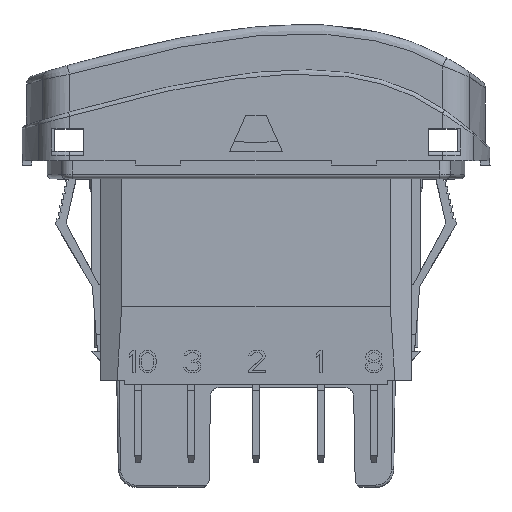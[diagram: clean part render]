
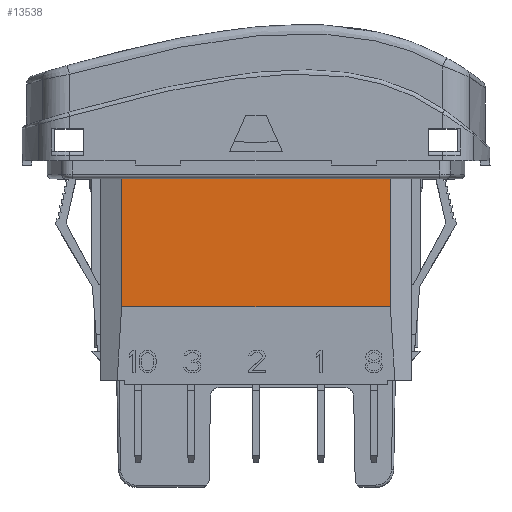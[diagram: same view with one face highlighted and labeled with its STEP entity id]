
A CAD part, top view. The second image highlights one B-rep face of the part: STEP entity #13538.
In plain terms, the highlighted planar face has unit normal (0, 0, 1).
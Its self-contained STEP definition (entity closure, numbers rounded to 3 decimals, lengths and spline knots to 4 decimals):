
#1695=DIRECTION('',(1.,0.,0.));
#1696=VECTOR('',#1695,1.1663);
#1697=CARTESIAN_POINT('',(-0.5831,0.9331,
0.4094));
#1698=LINE('',#1697,#1696);
#1939=DIRECTION('',(0.,1.,0.));
#1940=VECTOR('',#1939,0.6142);
#1941=CARTESIAN_POINT('',(0.5831,0.3189,
0.4094));
#1942=LINE('',#1941,#1940);
#2807=DIRECTION('',(0.,1.,0.));
#2808=VECTOR('',#2807,0.6142);
#2809=CARTESIAN_POINT('',(-0.5831,0.3189,
0.4094));
#2810=LINE('',#2809,#2808);
#2997=DIRECTION('',(1.,0.,0.));
#2998=VECTOR('',#2997,1.1663);
#2999=CARTESIAN_POINT('',(-0.5831,0.3189,
0.4094));
#3000=LINE('',#2999,#2998);
#8009=CARTESIAN_POINT('',(0.5831,0.9331,
0.4094));
#8010=VERTEX_POINT('',#8009);
#8021=CARTESIAN_POINT('',(-0.5831,0.9331,
0.4094));
#8022=VERTEX_POINT('',#8021);
#9835=CARTESIAN_POINT('',(-0.5831,0.3189,
0.4094));
#9836=CARTESIAN_POINT('',(0.5831,0.3189,
0.4094));
#9837=VERTEX_POINT('',#9835);
#9838=VERTEX_POINT('',#9836);
#13527=CARTESIAN_POINT('',(-0.6752,0.,0.4094));
#13528=DIRECTION('',(0.,0.,1.));
#13529=DIRECTION('',(1.,0.,0.));
#13530=AXIS2_PLACEMENT_3D('',#13527,#13528,#13529);
#13531=PLANE('',#13530);
#13532=ORIENTED_EDGE('',*,*,#12758,.F.);
#13533=ORIENTED_EDGE('',*,*,#13234,.T.);
#13534=ORIENTED_EDGE('',*,*,#12360,.T.);
#13535=ORIENTED_EDGE('',*,*,#12742,.F.);
#13536=EDGE_LOOP('',(#13532,#13533,#13534,#13535));
#13537=FACE_OUTER_BOUND('',#13536,.F.);
#13538=ADVANCED_FACE('',(#13537),#13531,.T.);
#12360=EDGE_CURVE('',#8022,#8010,#1698,.T.);
#12742=EDGE_CURVE('',#9838,#8010,#1942,.T.);
#12758=EDGE_CURVE('',#9837,#9838,#3000,.T.);
#13234=EDGE_CURVE('',#9837,#8022,#2810,.T.);
